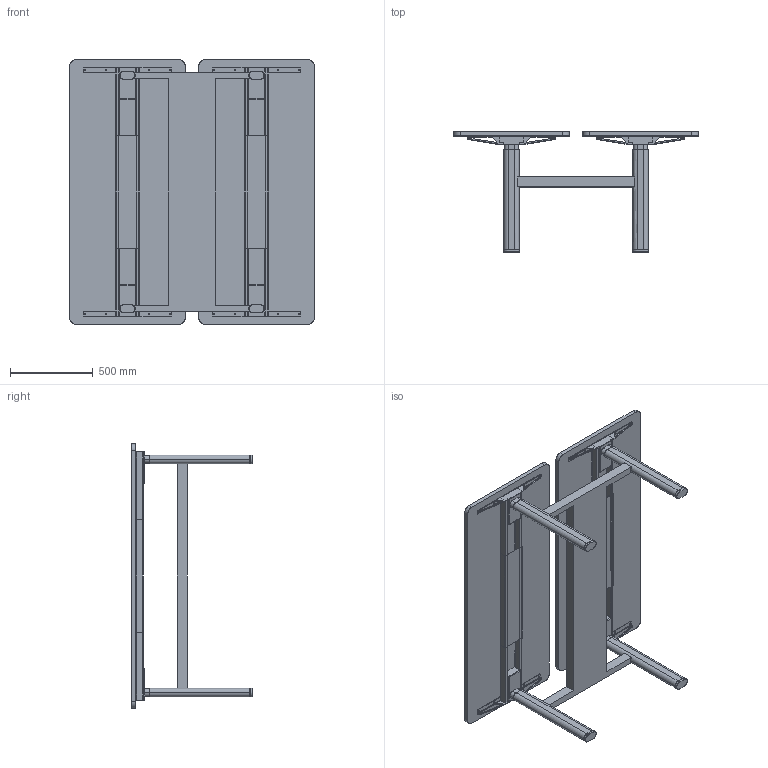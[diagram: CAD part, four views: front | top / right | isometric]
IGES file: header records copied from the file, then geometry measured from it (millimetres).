
Start section: SolidWorks IGES file using analytic representation for surfaces
Global section: file name: C:\Users\simone.cerana\OneDrive - Gruppo Tecno\Desktop\CHINA\DISEGNI DI SERIE\ASSIEMI LISTINO\AXIS LISTINO\AX1614ST.IGS; native system: SolidWorks 2024; preprocessor: SolidWorks 2024; author: simone.cerana; date: 260508.091810; units: millimetre
Bounding box: 1480 x 729.39 x 1600 mm (x, y, z)
Surface area: 7863447.1 mm2 (no closed solid volume)
Topology: 0 solids, 0 shells, 542 faces, 6352 edges, 6344 vertices
Faces by surface type: revolution 272, bspline 270
